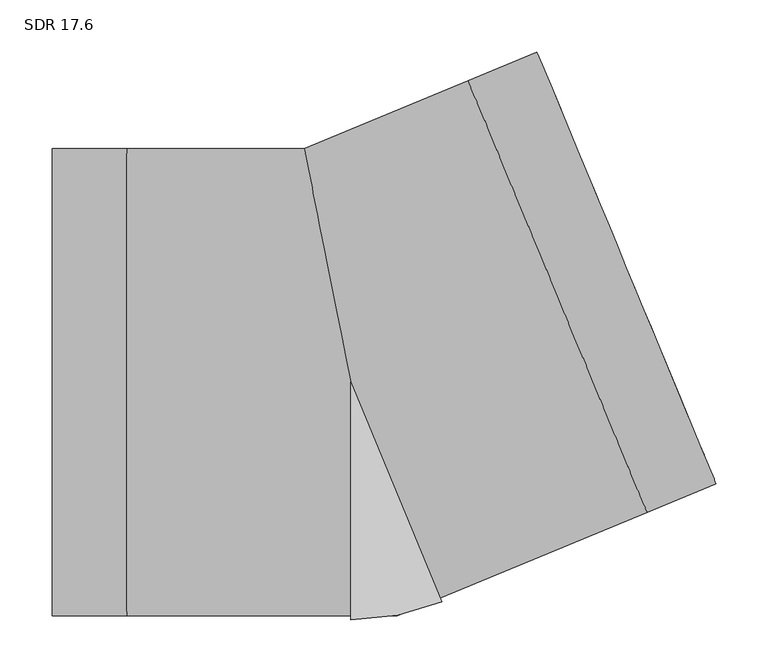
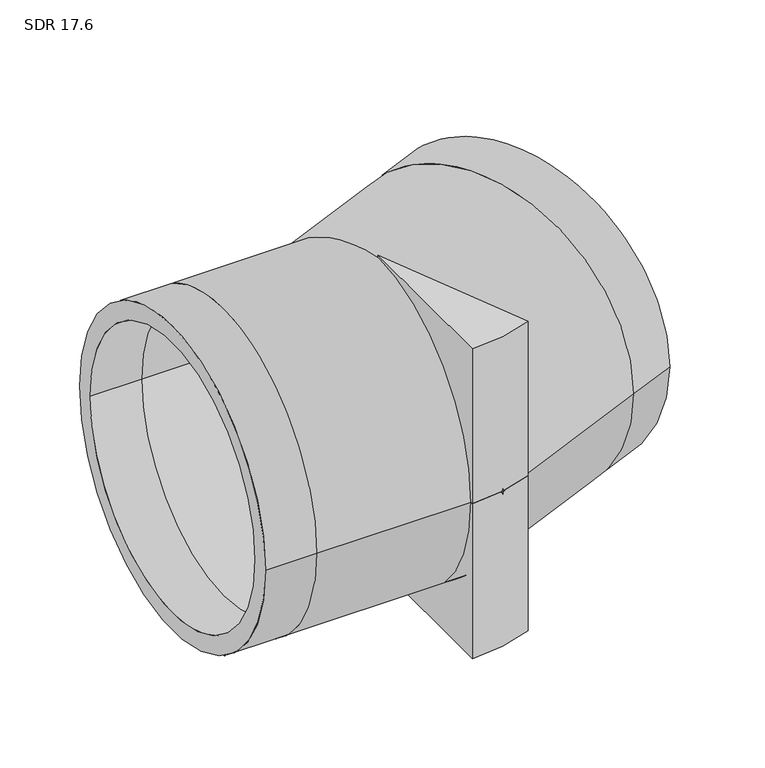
"""IFC4 building model written with IfcOpenShell, lengths in millimetres: pipe fitting geometry, Aquatherm - Elbow Blue BW Segmented : SDR 17.6."""

from ifc_helpers import new_model, si_unit, point, frame, origin, origin_with_axes, origin_2d, place, context, project, spatial, polyline, circle_curve, ellipse_curve, trimmed, segment, composite_curve, outline, extrude, source, transform, mapped, element, save
from ifc_brep_helpers import plane_surface, cylinder_surface, revolved_surface, advanced_brep


def sdr_17_6_374fb1b2(model_context):
    return source(origin(), model_context, "Body", "SolidModel", [
        extrude(outline(composite_curve([segment(polyline([(0.0, -228.6), (0.0, 0.0), (87.4814326, -211.1988611)]), True, "CONTINUOUS"), segment(trimmed(circle_curve(origin_2d(), 228.6), [point((87.4814326, -211.1988611))], [point((0.0, -228.6))], False, "CARTESIAN"), True, "CONTINUOUS")], self_intersect=False)), frame((0.0, 0.0, -228.6), z_axis=(0.0, 0.0, 1.0), x_axis=(1.0, 0.0, 0.0)), (0.0, 0.0, 1.0), 228.6),
        extrude(outline(composite_curve([segment(trimmed(circle_curve(origin_2d(), 228.6), [point((87.4814326, -211.1988611))], [point((0.0, -228.6))], False, "CARTESIAN"), True, "CONTINUOUS"), segment(polyline([(0.0, -228.6), (0.0, 0.0), (87.4814326, -211.1988611)]), True, "CONTINUOUS")], self_intersect=False)), origin_with_axes(), (0.0, 0.0, 1.0), 228.6),
        advanced_brep(
        [(-287.02, -224.79, 0.0), (-287.02, 224.79, 0.0), (-287.02, -199.2479494, 0.0), (-287.02, 199.2479494, 0.0), (351.1953122, -97.8410814, 0.0), (179.1484947, 317.5166789, 0.0), (341.4207926, -74.2433036, 0.0), (188.9230143, 293.9189011, 0.0), (-215.265, -224.79, 0.0), (-215.265, 224.79, 0.0), (-215.265, -199.2479494, 0.0), (-215.265, 199.2479494, 0.0), (44.7135111, -224.79, 0.0), (-44.7135111, 224.79, 0.0), (39.6328813, -199.2479494, 0.0), (-39.6328813, 199.2479494, 0.0), (284.9023363, -125.300531, 0.0), (112.8555188, 290.0572292, 0.0), (275.1278167, -101.7027533, 0.0), (122.6300384, 266.4594514, 0.0)],
        [
            (0, 1, circle_curve(frame((-287.02, 0.0, 0.0), z_axis=(-1.0, 0.0, 0.0), x_axis=(0.0, 1.0, 0.0)), 224.79)),
            (1, 0, circle_curve(frame((-287.02, 0.0, 0.0), z_axis=(-1.0, 0.0, 0.0), x_axis=(0.0, 1.0, 0.0)), 224.79)),
            (2, 3, circle_curve(frame((-287.02, 0.0, 0.0), z_axis=(1.0, 0.0, 0.0), x_axis=(0.0, 1.0, 0.0)), 199.2479494)),
            (3, 2, circle_curve(frame((-287.02, 0.0, 0.0), z_axis=(1.0, 0.0, 0.0), x_axis=(0.0, 1.0, 0.0)), 199.2479494)),
            (4, 5, circle_curve(frame((265.1719034, 109.8377988, 0.0), z_axis=(0.923879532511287, 0.3826834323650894, 0.0), x_axis=(-0.3826834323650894, 0.923879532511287, 0.0)), 224.79)),
            (5, 4, circle_curve(frame((265.1719034, 109.8377988, 0.0), z_axis=(0.923879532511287, 0.3826834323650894, 0.0), x_axis=(-0.3826834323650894, 0.923879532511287, 0.0)), 224.79)),
            (6, 7, circle_curve(frame((265.1719034, 109.8377988, 0.0), z_axis=(-0.923879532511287, -0.3826834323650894, 0.0), x_axis=(-0.3826834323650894, 0.923879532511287, 0.0)), 199.2479494)),
            (7, 6, circle_curve(frame((265.1719034, 109.8377988, 0.0), z_axis=(-0.923879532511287, -0.3826834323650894, 0.0), x_axis=(-0.3826834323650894, 0.923879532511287, 0.0)), 199.2479494)),
            (0, 8),
            (8, 9, circle_curve(frame((-215.265, 0.0, 0.0), z_axis=(-1.0, 0.0, 0.0), x_axis=(0.0, 1.0, 0.0)), 224.79)),
            (9, 1),
            (9, 8, circle_curve(frame((-215.265, 0.0, 0.0), z_axis=(-1.0, 0.0, 0.0), x_axis=(0.0, 1.0, 0.0)), 224.79)),
            (2, 10),
            (10, 11, circle_curve(frame((-215.265, 0.0, 0.0), z_axis=(1.0, 0.0, 0.0), x_axis=(0.0, 1.0, 0.0)), 199.2479494)),
            (11, 3),
            (11, 10, circle_curve(frame((-215.265, 0.0, 0.0), z_axis=(1.0, 0.0, 0.0), x_axis=(0.0, 1.0, 0.0)), 199.2479494)),
            (8, 12),
            (12, 13, ellipse_curve(frame((0.0, 0.0, 0.0), z_axis=(-0.9807852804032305, -0.1950903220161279, 0.0), x_axis=(-0.19509032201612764, 0.9807852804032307, 0.0)), 229.1938965, 224.79)),
            (13, 9),
            (13, 12, ellipse_curve(frame((0.0, 0.0, 0.0), z_axis=(-0.9807852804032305, -0.1950903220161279, 0.0), x_axis=(-0.19509032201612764, 0.9807852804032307, 0.0)), 229.1938965, 224.79)),
            (10, 14),
            (14, 15, ellipse_curve(frame((0.0, 0.0, 0.0), z_axis=(0.9807852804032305, 0.1950903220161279, 0.0), x_axis=(0.19509032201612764, -0.9807852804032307, 0.0)), 203.1514475, 199.2479494)),
            (15, 11),
            (15, 14, ellipse_curve(frame((0.0, 0.0, 0.0), z_axis=(0.9807852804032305, 0.1950903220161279, 0.0), x_axis=(0.19509032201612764, -0.9807852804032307, 0.0)), 203.1514475, 199.2479494)),
            (12, 16),
            (16, 17, circle_curve(frame((198.8789276, 82.3783491, 0.0), z_axis=(-0.9238795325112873, -0.3826834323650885, 0.0), x_axis=(-0.3826834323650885, 0.9238795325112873, 0.0)), 224.79)),
            (17, 13),
            (17, 16, circle_curve(frame((198.8789276, 82.3783491, 0.0), z_axis=(-0.9238795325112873, -0.3826834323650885, 0.0), x_axis=(-0.3826834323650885, 0.9238795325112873, 0.0)), 224.79)),
            (14, 18),
            (18, 19, circle_curve(frame((198.8789276, 82.3783491, 0.0), z_axis=(0.9238795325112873, 0.3826834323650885, 0.0), x_axis=(-0.3826834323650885, 0.9238795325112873, 0.0)), 199.2479494)),
            (19, 15),
            (19, 18, circle_curve(frame((198.8789276, 82.3783491, 0.0), z_axis=(0.9238795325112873, 0.3826834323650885, 0.0), x_axis=(-0.3826834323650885, 0.9238795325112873, 0.0)), 199.2479494)),
            (16, 4),
            (5, 17),
            (18, 6),
            (7, 19),
        ],
        [
            plane_surface(frame((-287.02, 0.0, 0.0), z_axis=(-1.0, 0.0, 0.0), x_axis=(0.0, 0.0, 1.0))),
            plane_surface(frame((265.1719034, 109.8377988, 0.0), z_axis=(0.923879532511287, 0.3826834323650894, 0.0), x_axis=(0.0, 0.0, 1.0))),
            cylinder_surface(frame((-287.02, 0.0, 0.0), z_axis=(-1.0, 0.0, 0.0), x_axis=(0.0, 1.0, 0.0)), 224.79),
            revolved_surface(polyline([(-215.265, 199.2479494, 0.0), (-287.02, 199.2479494, 0.0)]), (-287.02, 0.0, 0.0), (1.0, 0.0, 0.0)),
            cylinder_surface(frame((-215.265, 0.0, 0.0), z_axis=(-1.0, 0.0, 0.0), x_axis=(0.0, 1.0, 0.0)), 224.79),
            revolved_surface(polyline([(39.63288131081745, 199.2479494, 0.0), (-215.265, 199.2479494, 0.0)]), (-215.265, 0.0, 0.0), (1.0, 0.0, 0.0)),
            cylinder_surface(frame((0.0, 0.0, 0.0), z_axis=(-0.9238795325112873, -0.3826834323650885, 0.0), x_axis=(-0.3826834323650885, 0.9238795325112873, 0.0)), 224.79),
            revolved_surface(polyline([(122.63003843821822, 266.4594514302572, 0.0), (-112.86489703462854, 168.9142552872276, 0.0)]), (0.0, 0.0, 0.0), (0.9238795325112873, 0.3826834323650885, 0.0)),
            cylinder_surface(frame((198.8789276, 82.3783491, 0.0), z_axis=(-0.923879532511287, -0.3826834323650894, 0.0), x_axis=(-0.3826834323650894, 0.923879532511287, 0.0)), 224.79),
            revolved_surface(polyline([(188.92301428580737, 293.9189011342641, 0.0), (122.63003835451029, 266.4594514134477, 0.0)]), (198.8789276, 82.3783491, 0.0), (0.923879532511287, 0.3826834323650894, 0.0)),
        ],
        [
            (0, [[1, 2], [3, 4]]),
            (1, [[5, 6], [7, 8]]),
            (2, [[-1, 9, 10, 11]]),
            (2, [[-2, -11, 12, -9]]),
            (3, [[-3, 13, 14, 15]]),
            (3, [[-4, -15, 16, -13]]),
            (4, [[-10, 17, 18, 19]]),
            (4, [[-12, -19, 20, -17]]),
            (5, [[-14, 21, 22, 23]]),
            (5, [[-16, -23, 24, -21]]),
            (6, [[-18, 25, 26, 27]]),
            (6, [[-20, -27, 28, -25]]),
            (7, [[-22, 29, 30, 31]]),
            (7, [[-24, -31, 32, -29]]),
            (8, [[-26, 33, -6, 34]]),
            (8, [[-28, -34, -5, -33]]),
            (9, [[-30, 35, -8, 36]]),
            (9, [[-32, -36, -7, -35]]),
        ],
    ),
    ])


if __name__ == "__main__":
    model = new_model("IFC4")
    model_context = context("Model", 3, world=origin())
    ifc_project = project(units=[si_unit("LENGTHUNIT", "METRE", prefix="MILLI")], contexts=[model_context])
    site = spatial("IfcSite", under=ifc_project)
    building = spatial("IfcBuilding", under=site)
    placement = place(None, origin())
    sdr_17_6_shape = sdr_17_6_374fb1b2(model_context)
    element("IfcPipeFitting", 1, ObjectType="Aquatherm - Elbow Blue BW Segmented : SDR 17.6", at=placement, inside=building, context=model_context, shape_type="MappedRepresentation", body=[
        mapped(sdr_17_6_shape, transform((0.0, 0.0, 0.0), x_axis=(1.0, 0.0, 0.0), y_axis=(0.0, 1.0, 0.0), z_axis=(0.0, 0.0, 1.0))),
    ])
    save(model, "model.ifc")
